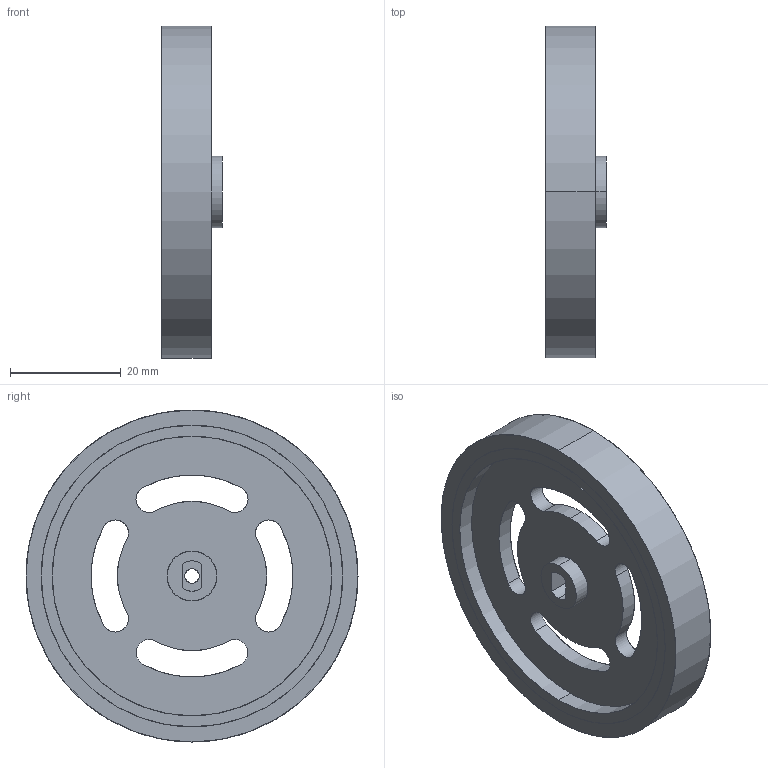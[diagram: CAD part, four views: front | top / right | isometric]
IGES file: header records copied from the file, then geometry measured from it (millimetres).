
Start section: SolidWorks IGES file using analytic representation for surfaces
Global section: file name: C:\Users\Diego\Desktop\LLANTA\Llanta azul.IGS; native system: SolidWorks 2013; preprocessor: SolidWorks 2013; author: Diego; date: 140630.170232; units: millimetre
Bounding box: 10.9 x 60 x 60 mm (x, y, z)
Surface area: 8501.4 mm2 (no closed solid volume)
Topology: 0 solids, 0 shells, 55 faces, 1488 edges, 1488 vertices
Faces by surface type: revolution 43, bspline 12
